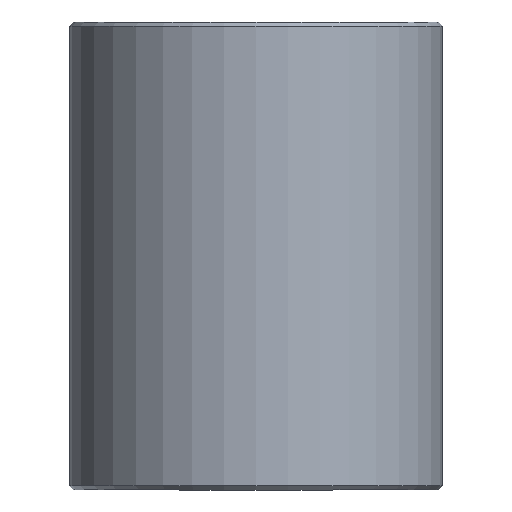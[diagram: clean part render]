
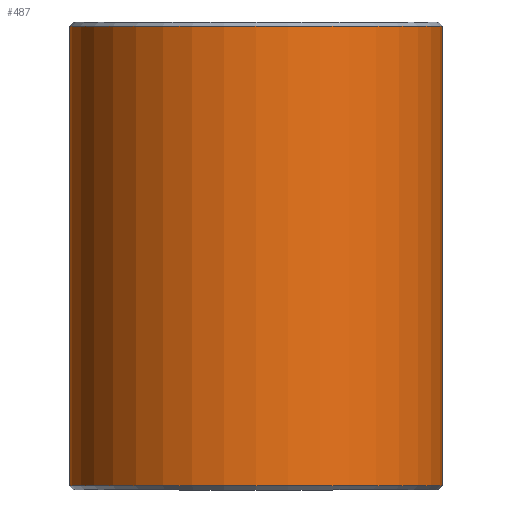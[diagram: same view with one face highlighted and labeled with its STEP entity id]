
A CAD part, left-side view. The second image highlights one B-rep face of the part: STEP entity #487.
In plain terms, the highlighted cylindrical face has radius 17.462 mm (diameter 34.925 mm), a partial arc.
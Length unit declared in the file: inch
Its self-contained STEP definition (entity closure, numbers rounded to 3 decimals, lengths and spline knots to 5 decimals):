
#15 = VERTEX_POINT ( 'NONE', #276 ) ;
#48 = CARTESIAN_POINT ( 'NONE',  ( 0., 0.6875, 1.725 ) ) ;
#85 = ORIENTED_EDGE ( 'NONE', *, *, #588, .F. ) ;
#128 = ORIENTED_EDGE ( 'NONE', *, *, #522, .T. ) ;
#147 = CYLINDRICAL_SURFACE ( 'NONE', #543, 0.6875 ) ;
#156 = DIRECTION ( 'NONE',  ( 0., 0., 1. ) ) ;
#159 = CARTESIAN_POINT ( 'NONE',  ( 0., 0., 1.71 ) ) ;
#206 = EDGE_LOOP ( 'NONE', ( #128, #402, #684, #85 ) ) ;
#217 = DIRECTION ( 'NONE',  ( 0., 1., 0. ) ) ;
#225 = DIRECTION ( 'NONE',  ( 0., 0., -1. ) ) ;
#246 = CIRCLE ( 'NONE', #459, 0.6875 ) ;
#276 = CARTESIAN_POINT ( 'NONE',  ( 0., -0.6875, 1.71 ) ) ;
#330 = CARTESIAN_POINT ( 'NONE',  ( 0., -0.6875, 1.725 ) ) ;
#333 = FACE_OUTER_BOUND ( 'NONE', #206, .T. ) ;
#386 = DIRECTION ( 'NONE',  ( 0., 0., -1. ) ) ;
#387 = CIRCLE ( 'NONE', #414, 0.6875 ) ;
#402 = ORIENTED_EDGE ( 'NONE', *, *, #678, .T. ) ;
#409 = EDGE_CURVE ( 'NONE', #681, #478, #387, .T. ) ;
#414 = AXIS2_PLACEMENT_3D ( 'NONE', #473, #156, #533 ) ;
#416 = CARTESIAN_POINT ( 'NONE',  ( 0., 0., 1.725 ) ) ;
#420 = DIRECTION ( 'NONE',  ( 0., 0., -1. ) ) ;
#425 = CARTESIAN_POINT ( 'NONE',  ( 0., 0.6875, 1.71 ) ) ;
#459 = AXIS2_PLACEMENT_3D ( 'NONE', #159, #536, #217 ) ;
#468 = DIRECTION ( 'NONE',  ( 0., -1., 0. ) ) ;
#473 = CARTESIAN_POINT ( 'NONE',  ( 0., 0., 0.015 ) ) ;
#474 = CARTESIAN_POINT ( 'NONE',  ( 0., 0.6875, 0.015 ) ) ;
#478 = VERTEX_POINT ( 'NONE', #706 ) ;
#487 = ADVANCED_FACE ( 'NONE', ( #333 ), #147, .T. ) ;
#522 = EDGE_CURVE ( 'NONE', #15, #544, #246, .T. ) ;
#533 = DIRECTION ( 'NONE',  ( 0., 1., 0. ) ) ;
#536 = DIRECTION ( 'NONE',  ( 0., 0., -1. ) ) ;
#543 = AXIS2_PLACEMENT_3D ( 'NONE', #416, #420, #468 ) ;
#544 = VERTEX_POINT ( 'NONE', #425 ) ;
#555 = LINE ( 'NONE', #48, #608 ) ;
#588 = EDGE_CURVE ( 'NONE', #15, #478, #685, .T. ) ;
#608 = VECTOR ( 'NONE', #386, 39.37008 ) ;
#678 = EDGE_CURVE ( 'NONE', #544, #681, #555, .T. ) ;
#681 = VERTEX_POINT ( 'NONE', #474 ) ;
#683 = VECTOR ( 'NONE', #225, 39.37008 ) ;
#684 = ORIENTED_EDGE ( 'NONE', *, *, #409, .T. ) ;
#685 = LINE ( 'NONE', #330, #683 ) ;
#706 = CARTESIAN_POINT ( 'NONE',  ( 0., -0.6875, 0.015 ) ) ;
